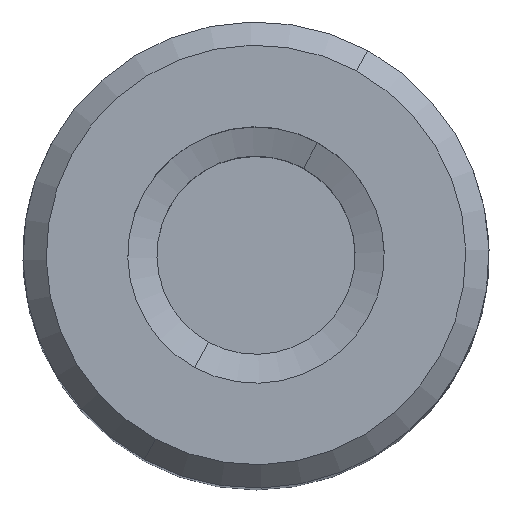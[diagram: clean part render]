
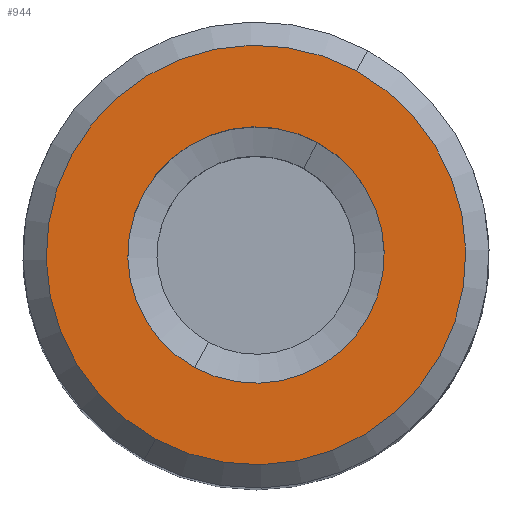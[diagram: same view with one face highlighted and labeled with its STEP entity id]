
A CAD part, top view. The second image highlights one B-rep face of the part: STEP entity #944.
In plain terms, the highlighted planar face has unit normal (0, 0, 1).
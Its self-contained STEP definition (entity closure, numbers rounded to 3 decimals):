
#888=AXIS2_PLACEMENT_3D('Circle Axis2P3D',#886,#887,$) ;
#907=AXIS2_PLACEMENT_3D('Circle Axis2P3D',#905,#906,$) ;
#920=AXIS2_PLACEMENT_3D('Plane Axis2P3D',#917,#918,#919) ;
#928=AXIS2_PLACEMENT_3D('Circle Axis2P3D',#926,#927,$) ;
#937=AXIS2_PLACEMENT_3D('Circle Axis2P3D',#935,#936,$) ;
#883=CARTESIAN_POINT('Vertex',(4.315,7.898,0.)) ;
#886=CARTESIAN_POINT('Axis2P3D Location',(0.,0.,0.)) ;
#890=CARTESIAN_POINT('Vertex',(-4.315,-7.898,0.)) ;
#905=CARTESIAN_POINT('Axis2P3D Location',(0.,0.,0.)) ;
#917=CARTESIAN_POINT('Axis2P3D Location',(0.,9.,0.)) ;
#926=CARTESIAN_POINT('Axis2P3D Location',(0.,0.,0.)) ;
#930=CARTESIAN_POINT('Vertex',(2.637,4.827,0.)) ;
#932=CARTESIAN_POINT('Vertex',(-2.637,-4.827,0.)) ;
#935=CARTESIAN_POINT('Axis2P3D Location',(0.,0.,0.)) ;
#887=DIRECTION('Axis2P3D Direction',(0.,0.,-1.)) ;
#906=DIRECTION('Axis2P3D Direction',(0.,0.,-1.)) ;
#918=DIRECTION('Axis2P3D Direction',(0.,0.,-1.)) ;
#919=DIRECTION('Axis2P3D XDirection',(1.,0.,0.)) ;
#927=DIRECTION('Axis2P3D Direction',(0.,0.,-1.)) ;
#936=DIRECTION('Axis2P3D Direction',(0.,0.,-1.)) ;
#923=ORIENTED_EDGE('',*,*,#892,.F.) ;
#924=ORIENTED_EDGE('',*,*,#909,.F.) ;
#941=ORIENTED_EDGE('',*,*,#934,.F.) ;
#942=ORIENTED_EDGE('',*,*,#939,.F.) ;
#943=FACE_BOUND('',#940,.T.) ;
#944=ADVANCED_FACE('NOCUT',(#925,#943),#921,.F.) ;
#889=CIRCLE('generated circle',#888,9.) ;
#908=CIRCLE('generated circle',#907,9.) ;
#929=CIRCLE('generated circle',#928,5.5) ;
#938=CIRCLE('generated circle',#937,5.5) ;
#892=EDGE_CURVE('',#884,#891,#889,.T.) ;
#909=EDGE_CURVE('',#891,#884,#908,.T.) ;
#934=EDGE_CURVE('',#931,#933,#929,.F.) ;
#939=EDGE_CURVE('',#933,#931,#938,.F.) ;
#922=EDGE_LOOP('',(#923,#924)) ;
#940=EDGE_LOOP('',(#941,#942)) ;
#925=FACE_OUTER_BOUND('',#922,.T.) ;
#921=PLANE('',#920) ;
#884=VERTEX_POINT('',#883) ;
#891=VERTEX_POINT('',#890) ;
#931=VERTEX_POINT('',#930) ;
#933=VERTEX_POINT('',#932) ;
